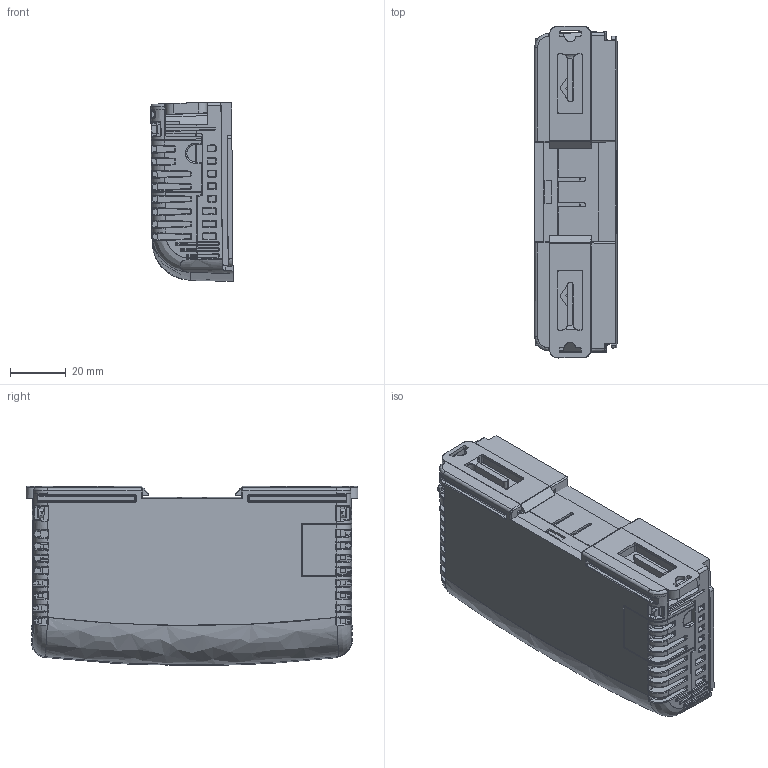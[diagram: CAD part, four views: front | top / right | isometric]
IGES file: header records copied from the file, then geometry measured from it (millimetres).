
Start section: SolidWorks IGES file using analytic representation for surfaces
Global section: file name: D:\Project\UniStream\CAD Files\3D\IGES\UniStream Exp End Unit.IGS; native system: SolidWorks 2011; preprocessor: SolidWorks 2011; author: baraki; date: 141020.102020; units: millimetre
Bounding box: 29.55 x 119.21 x 64.43 mm (x, y, z)
Surface area: 45553.4 mm2 (no closed solid volume)
Topology: 0 solids, 0 shells, 2182 faces, 17243 edges, 17214 vertices
Faces by surface type: bspline 1477, revolution 705
